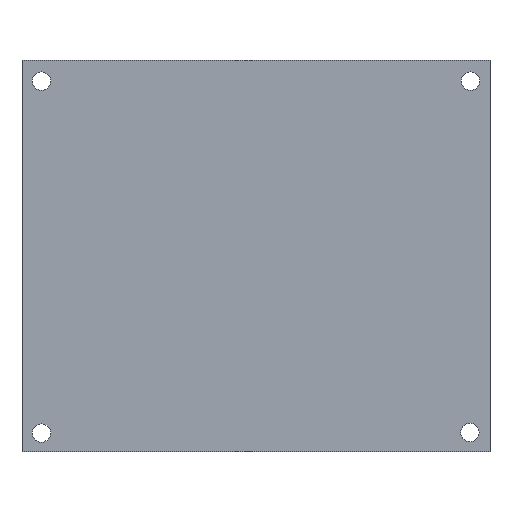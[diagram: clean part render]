
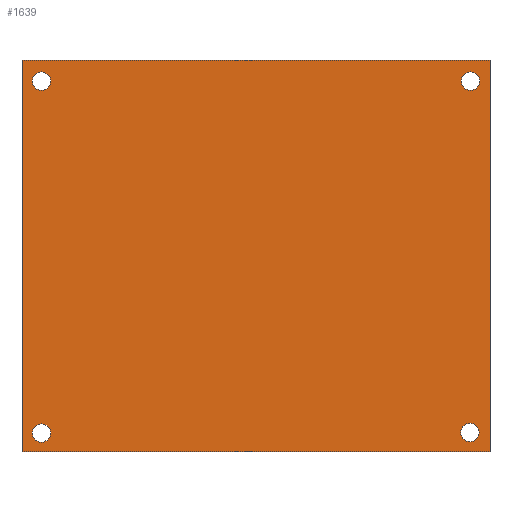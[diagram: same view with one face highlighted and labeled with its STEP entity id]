
A CAD part, front view. The second image highlights one B-rep face of the part: STEP entity #1639.
In plain terms, the highlighted planar face has unit normal (0, -1, 0).
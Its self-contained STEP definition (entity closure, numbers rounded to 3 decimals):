
#14 = VERTEX_POINT ( 'NONE', #816 ) ;
#20 = VERTEX_POINT ( 'NONE', #4176 ) ;
#144 = VERTEX_POINT ( 'NONE', #1829 ) ;
#170 = VECTOR ( 'NONE', #4320, 1000. ) ;
#194 = ORIENTED_EDGE ( 'NONE', *, *, #4121, .T. ) ;
#211 = VERTEX_POINT ( 'NONE', #940 ) ;
#448 = FACE_BOUND ( 'NONE', #1674, .T. ) ;
#543 = DIRECTION ( 'NONE',  ( -1., 0., 0. ) ) ;
#557 = DIRECTION ( 'NONE',  ( 0., 0., 1. ) ) ;
#559 = DIRECTION ( 'NONE',  ( 0., -1., 0. ) ) ;
#587 = ORIENTED_EDGE ( 'NONE', *, *, #3563, .T. ) ;
#724 = DIRECTION ( 'NONE',  ( 0., 0., 1. ) ) ;
#741 = LINE ( 'NONE', #1158, #4229 ) ;
#744 = VERTEX_POINT ( 'NONE', #2888 ) ;
#762 = DIRECTION ( 'NONE',  ( 0., 1., 0. ) ) ;
#804 = CIRCLE ( 'NONE', #4353, 1.6 ) ;
#816 = CARTESIAN_POINT ( 'NONE',  ( -10.795, 0., 8.89 ) ) ;
#911 = CARTESIAN_POINT ( 'NONE',  ( -89.31, 0., 10.59 ) ) ;
#940 = CARTESIAN_POINT ( 'NONE',  ( -89.31, 0., 72.19 ) ) ;
#973 = AXIS2_PLACEMENT_3D ( 'NONE', #3757, #4220, #1206 ) ;
#976 = CARTESIAN_POINT ( 'NONE',  ( -14.21, 0., 72.19 ) ) ;
#1108 = CARTESIAN_POINT ( 'NONE',  ( -89.31, 0., 73.79 ) ) ;
#1158 = CARTESIAN_POINT ( 'NONE',  ( -92.71, 0., 77.47 ) ) ;
#1206 = DIRECTION ( 'NONE',  ( 0., 0., 1. ) ) ;
#1212 = CARTESIAN_POINT ( 'NONE',  ( -92.71, 0., 8.89 ) ) ;
#1215 = CIRCLE ( 'NONE', #4282, 1.6 ) ;
#1231 = EDGE_CURVE ( 'NONE', #3557, #144, #741, .T. ) ;
#1343 = CARTESIAN_POINT ( 'NONE',  ( -92.71, 0., 8.89 ) ) ;
#1365 = AXIS2_PLACEMENT_3D ( 'NONE', #2775, #1461, #4497 ) ;
#1458 = ORIENTED_EDGE ( 'NONE', *, *, #1864, .T. ) ;
#1461 = DIRECTION ( 'NONE',  ( 0., 1., 0. ) ) ;
#1472 = CARTESIAN_POINT ( 'NONE',  ( -14.31, 0., 12.29 ) ) ;
#1520 = ORIENTED_EDGE ( 'NONE', *, *, #1231, .F. ) ;
#1584 = AXIS2_PLACEMENT_3D ( 'NONE', #1688, #4619, #5451 ) ;
#1609 = CIRCLE ( 'NONE', #4899, 1.6 ) ;
#1639 = ADVANCED_FACE ( 'NONE', ( #4117, #448, #4888, #4772, #3246 ), #4359, .T. ) ;
#1674 = EDGE_LOOP ( 'NONE', ( #4219, #5267 ) ) ;
#1688 = CARTESIAN_POINT ( 'NONE',  ( -89.31, 0., 12.19 ) ) ;
#1750 = CARTESIAN_POINT ( 'NONE',  ( -92.71, 0., 77.47 ) ) ;
#1772 = CIRCLE ( 'NONE', #4060, 1.6 ) ;
#1829 = CARTESIAN_POINT ( 'NONE',  ( -10.795, 0., 77.47 ) ) ;
#1834 = DIRECTION ( 'NONE',  ( 0., 0., 1. ) ) ;
#1864 = EDGE_CURVE ( 'NONE', #3557, #4547, #4543, .T. ) ;
#1963 = DIRECTION ( 'NONE',  ( 0., 0., 1. ) ) ;
#2057 = EDGE_LOOP ( 'NONE', ( #1458, #587, #2151, #1520 ) ) ;
#2074 = AXIS2_PLACEMENT_3D ( 'NONE', #4165, #4978, #4841 ) ;
#2096 = CIRCLE ( 'NONE', #1584, 1.6 ) ;
#2125 = VECTOR ( 'NONE', #557, 1000. ) ;
#2151 = ORIENTED_EDGE ( 'NONE', *, *, #2263, .T. ) ;
#2263 = EDGE_CURVE ( 'NONE', #14, #144, #2661, .T. ) ;
#2322 = EDGE_LOOP ( 'NONE', ( #2938, #3669 ) ) ;
#2413 = CARTESIAN_POINT ( 'NONE',  ( -92.71, 0., 77.47 ) ) ;
#2447 = DIRECTION ( 'NONE',  ( 1., 0., 0. ) ) ;
#2482 = VECTOR ( 'NONE', #5362, 1000. ) ;
#2487 = EDGE_CURVE ( 'NONE', #3549, #20, #2728, .T. ) ;
#2572 = CARTESIAN_POINT ( 'NONE',  ( -92.71, 0., 8.89 ) ) ;
#2661 = LINE ( 'NONE', #5256, #2125 ) ;
#2711 = LINE ( 'NONE', #1343, #170 ) ;
#2728 = CIRCLE ( 'NONE', #2074, 1.6 ) ;
#2748 = ORIENTED_EDGE ( 'NONE', *, *, #2487, .T. ) ;
#2775 = CARTESIAN_POINT ( 'NONE',  ( -14.31, 0., 12.29 ) ) ;
#2841 = CARTESIAN_POINT ( 'NONE',  ( -14.31, 0., 13.89 ) ) ;
#2844 = CARTESIAN_POINT ( 'NONE',  ( -14.21, 0., 73.79 ) ) ;
#2888 = CARTESIAN_POINT ( 'NONE',  ( -14.21, 0., 75.39 ) ) ;
#2938 = ORIENTED_EDGE ( 'NONE', *, *, #2961, .T. ) ;
#2954 = ORIENTED_EDGE ( 'NONE', *, *, #3848, .T. ) ;
#2961 = EDGE_CURVE ( 'NONE', #4149, #4361, #3793, .T. ) ;
#3039 = AXIS2_PLACEMENT_3D ( 'NONE', #2572, #559, #543 ) ;
#3119 = CARTESIAN_POINT ( 'NONE',  ( -89.31, 0., 73.79 ) ) ;
#3246 = FACE_BOUND ( 'NONE', #2322, .T. ) ;
#3258 = EDGE_CURVE ( 'NONE', #744, #4142, #1772, .T. ) ;
#3431 = EDGE_CURVE ( 'NONE', #4142, #744, #5032, .T. ) ;
#3488 = EDGE_LOOP ( 'NONE', ( #4561, #194 ) ) ;
#3549 = VERTEX_POINT ( 'NONE', #911 ) ;
#3557 = VERTEX_POINT ( 'NONE', #1750 ) ;
#3563 = EDGE_CURVE ( 'NONE', #4547, #14, #2711, .T. ) ;
#3566 = CARTESIAN_POINT ( 'NONE',  ( -14.31, 0., 10.69 ) ) ;
#3669 = ORIENTED_EDGE ( 'NONE', *, *, #4885, .T. ) ;
#3757 = CARTESIAN_POINT ( 'NONE',  ( -14.21, 0., 73.79 ) ) ;
#3793 = CIRCLE ( 'NONE', #1365, 1.6 ) ;
#3848 = EDGE_CURVE ( 'NONE', #20, #3549, #2096, .T. ) ;
#3961 = DIRECTION ( 'NONE',  ( 0., 1., 0. ) ) ;
#4060 = AXIS2_PLACEMENT_3D ( 'NONE', #2844, #762, #724 ) ;
#4094 = VERTEX_POINT ( 'NONE', #5251 ) ;
#4117 = FACE_BOUND ( 'NONE', #4668, .T. ) ;
#4121 = EDGE_CURVE ( 'NONE', #4094, #211, #1215, .T. ) ;
#4142 = VERTEX_POINT ( 'NONE', #976 ) ;
#4149 = VERTEX_POINT ( 'NONE', #3566 ) ;
#4165 = CARTESIAN_POINT ( 'NONE',  ( -89.31, 0., 12.19 ) ) ;
#4176 = CARTESIAN_POINT ( 'NONE',  ( -89.31, 0., 13.79 ) ) ;
#4219 = ORIENTED_EDGE ( 'NONE', *, *, #3431, .T. ) ;
#4220 = DIRECTION ( 'NONE',  ( 0., 1., 0. ) ) ;
#4229 = VECTOR ( 'NONE', #2447, 1000. ) ;
#4282 = AXIS2_PLACEMENT_3D ( 'NONE', #3119, #3961, #1834 ) ;
#4320 = DIRECTION ( 'NONE',  ( 1., 0., 0. ) ) ;
#4353 = AXIS2_PLACEMENT_3D ( 'NONE', #1108, #4542, #1963 ) ;
#4359 = PLANE ( 'NONE',  #3039 ) ;
#4361 = VERTEX_POINT ( 'NONE', #2841 ) ;
#4497 = DIRECTION ( 'NONE',  ( 0., 0., 1. ) ) ;
#4510 = EDGE_CURVE ( 'NONE', #211, #4094, #804, .T. ) ;
#4542 = DIRECTION ( 'NONE',  ( 0., 1., 0. ) ) ;
#4543 = LINE ( 'NONE', #2413, #2482 ) ;
#4547 = VERTEX_POINT ( 'NONE', #1212 ) ;
#4561 = ORIENTED_EDGE ( 'NONE', *, *, #4510, .T. ) ;
#4619 = DIRECTION ( 'NONE',  ( 0., 1., 0. ) ) ;
#4668 = EDGE_LOOP ( 'NONE', ( #2748, #2954 ) ) ;
#4772 = FACE_BOUND ( 'NONE', #3488, .T. ) ;
#4841 = DIRECTION ( 'NONE',  ( 1., 0., 0. ) ) ;
#4845 = DIRECTION ( 'NONE',  ( 0., 0., 1. ) ) ;
#4885 = EDGE_CURVE ( 'NONE', #4361, #4149, #1609, .T. ) ;
#4888 = FACE_OUTER_BOUND ( 'NONE', #2057, .T. ) ;
#4899 = AXIS2_PLACEMENT_3D ( 'NONE', #1472, #5330, #4845 ) ;
#4978 = DIRECTION ( 'NONE',  ( 0., 1., 0. ) ) ;
#5032 = CIRCLE ( 'NONE', #973, 1.6 ) ;
#5251 = CARTESIAN_POINT ( 'NONE',  ( -89.31, 0., 75.39 ) ) ;
#5256 = CARTESIAN_POINT ( 'NONE',  ( -10.795, 0., 8.89 ) ) ;
#5267 = ORIENTED_EDGE ( 'NONE', *, *, #3258, .T. ) ;
#5330 = DIRECTION ( 'NONE',  ( 0., 1., 0. ) ) ;
#5362 = DIRECTION ( 'NONE',  ( 0., 0., -1. ) ) ;
#5451 = DIRECTION ( 'NONE',  ( 1., 0., 0. ) ) ;
